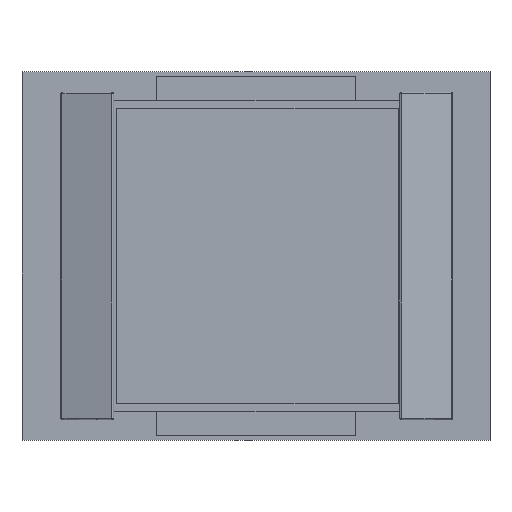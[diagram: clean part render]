
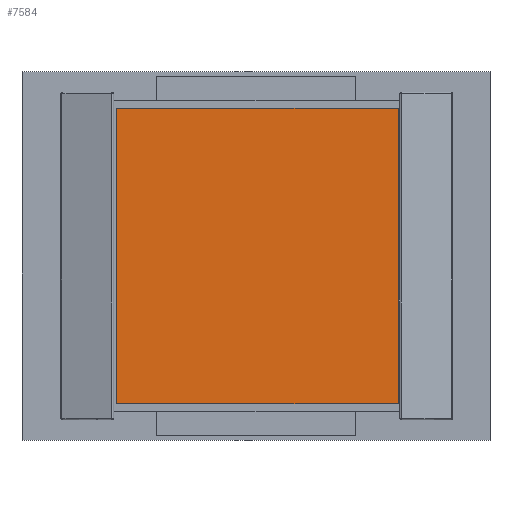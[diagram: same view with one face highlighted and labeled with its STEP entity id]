
A CAD part, top view. The second image highlights one B-rep face of the part: STEP entity #7584.
In plain terms, the highlighted planar face has unit normal (0, 0, 1).
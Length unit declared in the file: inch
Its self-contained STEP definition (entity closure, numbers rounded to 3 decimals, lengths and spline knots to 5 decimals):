
#204 = EDGE_CURVE ( 'NONE', #30970, #6736, #1222, .T. ) ;
#1222 = LINE ( 'NONE', #19210, #67275 ) ;
#3220 = ORIENTED_EDGE ( 'NONE', *, *, #204, .T. ) ;
#6736 = VERTEX_POINT ( 'NONE', #18415 ) ;
#6897 = ORIENTED_EDGE ( 'NONE', *, *, #42730, .T. ) ;
#7260 = EDGE_CURVE ( 'NONE', #6736, #82078, #39875, .T. ) ;
#7584 = ADVANCED_FACE ( 'NONE', ( #43793 ), #51312, .T. ) ;
#7745 = DIRECTION ( 'NONE',  ( 0., -1., 0. ) ) ;
#10588 = DIRECTION ( 'NONE',  ( -1., 0., 0. ) ) ;
#13981 = CARTESIAN_POINT ( 'NONE',  ( 0.84665, 0.84154, 0.02854 ) ) ;
#15493 = CARTESIAN_POINT ( 'NONE',  ( 0.06516, 0.02264, 0.02854 ) ) ;
#17425 = DIRECTION ( 'NONE',  ( 1., 0., 0. ) ) ;
#18415 = CARTESIAN_POINT ( 'NONE',  ( 0.06516, 0.02264, 0.02854 ) ) ;
#19210 = CARTESIAN_POINT ( 'NONE',  ( 0.06516, 0.84154, 0.02854 ) ) ;
#20406 = DIRECTION ( 'NONE',  ( 0., 1., 0. ) ) ;
#27688 = LINE ( 'NONE', #42516, #74759 ) ;
#29897 = CARTESIAN_POINT ( 'NONE',  ( 0.06516, 0.84154, 0.02854 ) ) ;
#30970 = VERTEX_POINT ( 'NONE', #29897 ) ;
#31771 = ORIENTED_EDGE ( 'NONE', *, *, #43065, .T. ) ;
#34769 = VECTOR ( 'NONE', #20406, 39.37008 ) ;
#35071 = CARTESIAN_POINT ( 'NONE',  ( 0.84665, 0.84154, 0.02854 ) ) ;
#37879 = VECTOR ( 'NONE', #17425, 39.37008 ) ;
#39875 = LINE ( 'NONE', #15493, #37879 ) ;
#42516 = CARTESIAN_POINT ( 'NONE',  ( 0.06516, 0.84154, 0.02854 ) ) ;
#42730 = EDGE_CURVE ( 'NONE', #82078, #62399, #51820, .T. ) ;
#43065 = EDGE_CURVE ( 'NONE', #62399, #30970, #27688, .T. ) ;
#43793 = FACE_OUTER_BOUND ( 'NONE', #59504, .T. ) ;
#50753 = DIRECTION ( 'NONE',  ( 1., 0., 0. ) ) ;
#51312 = PLANE ( 'NONE',  #64439 ) ;
#51820 = LINE ( 'NONE', #13981, #34769 ) ;
#53825 = CARTESIAN_POINT ( 'NONE',  ( 0., 0., 0.02854 ) ) ;
#57205 = DIRECTION ( 'NONE',  ( 0., 0., 1. ) ) ;
#59504 = EDGE_LOOP ( 'NONE', ( #6897, #31771, #3220, #66810 ) ) ;
#62399 = VERTEX_POINT ( 'NONE', #35071 ) ;
#64439 = AXIS2_PLACEMENT_3D ( 'NONE', #53825, #57205, #50753 ) ;
#65685 = CARTESIAN_POINT ( 'NONE',  ( 0.84665, 0.02264, 0.02854 ) ) ;
#66810 = ORIENTED_EDGE ( 'NONE', *, *, #7260, .T. ) ;
#67275 = VECTOR ( 'NONE', #7745, 39.37008 ) ;
#74759 = VECTOR ( 'NONE', #10588, 39.37008 ) ;
#82078 = VERTEX_POINT ( 'NONE', #65685 ) ;
